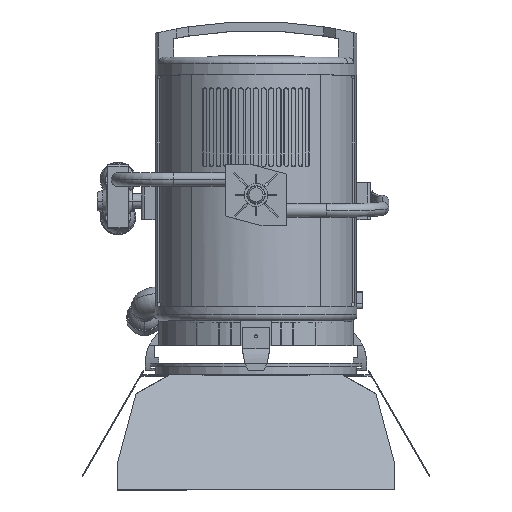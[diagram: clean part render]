
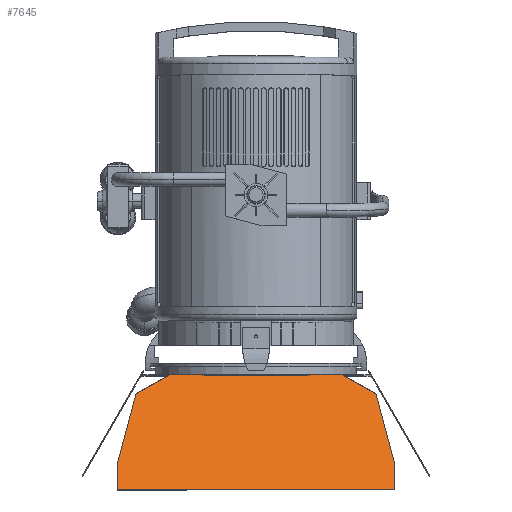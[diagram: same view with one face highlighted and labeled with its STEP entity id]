
A CAD part, top view. The second image highlights one B-rep face of the part: STEP entity #7645.
In plain terms, the highlighted planar face has unit normal (0, 0.5, 0.866) as drawn and (0, 0.866, -0.5) by its records, which use the part's own axes.
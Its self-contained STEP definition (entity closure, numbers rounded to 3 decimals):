
#1169 = VERTEX_POINT ( 'NONE', #25418 ) ;
#2176 = ORIENTED_EDGE ( 'NONE', *, *, #44955, .F. ) ;
#2838 = CARTESIAN_POINT ( 'NONE',  ( -195., 205., 48.811 ) ) ;
#3514 = CARTESIAN_POINT ( 'NONE',  ( -225., 270., 161.394 ) ) ;
#4025 = ORIENTED_EDGE ( 'NONE', *, *, #17364, .F. ) ;
#4124 = CARTESIAN_POINT ( 'NONE',  ( 195., 205., 48.811 ) ) ;
#4369 = LINE ( 'NONE', #33907, #12731 ) ;
#5915 = EDGE_CURVE ( 'NONE', #1169, #27390, #26769, .T. ) ;
#6369 = CARTESIAN_POINT ( 'NONE',  ( 140., 187.5, 18.5 ) ) ;
#6868 = VECTOR ( 'NONE', #8583, 1000. ) ;
#7489 = FACE_OUTER_BOUND ( 'NONE', #31205, .T. ) ;
#7505 = VERTEX_POINT ( 'NONE', #14333 ) ;
#7645 = ADVANCED_FACE ( 'NONE', ( #7489 ), #40484, .F. ) ;
#8465 = LINE ( 'NONE', #36101, #34040 ) ;
#8583 = DIRECTION ( 'NONE',  ( -1., 0., 0. ) ) ;
#9075 = VECTOR ( 'NONE', #12027, 1000. ) ;
#9413 = VERTEX_POINT ( 'NONE', #29239 ) ;
#9713 = LINE ( 'NONE', #25949, #44601 ) ;
#9978 = EDGE_CURVE ( 'NONE', #17866, #34977, #4369, .T. ) ;
#10423 = CARTESIAN_POINT ( 'NONE',  ( 195., 205., 48.811 ) ) ;
#11270 = LINE ( 'NONE', #10423, #29745 ) ;
#11815 = VERTEX_POINT ( 'NONE', #3514 ) ;
#12027 = DIRECTION ( 'NONE',  ( 0.844, -0.268, -0.465 ) ) ;
#12731 = VECTOR ( 'NONE', #40937, 1000. ) ;
#12750 = LINE ( 'NONE', #45305, #39433 ) ;
#13509 = EDGE_CURVE ( 'NONE', #34977, #11815, #34075, .T. ) ;
#13600 = DIRECTION ( 'NONE',  ( 0.225, -0.487, -0.844 ) ) ;
#14333 = CARTESIAN_POINT ( 'NONE',  ( 225., 270., 161.394 ) ) ;
#14571 = CARTESIAN_POINT ( 'NONE',  ( 140., 187.5, 18.5 ) ) ;
#14908 = CARTESIAN_POINT ( 'NONE',  ( -82.878, 187.5, 18.5 ) ) ;
#15059 = AXIS2_PLACEMENT_3D ( 'NONE', #43892, #44052, #23104 ) ;
#16437 = VECTOR ( 'NONE', #38923, 1000. ) ;
#16631 = EDGE_CURVE ( 'NONE', #42089, #7505, #11270, .T. ) ;
#16643 = VECTOR ( 'NONE', #36636, 1000. ) ;
#17364 = EDGE_CURVE ( 'NONE', #40773, #42089, #8465, .T. ) ;
#17866 = VERTEX_POINT ( 'NONE', #38924 ) ;
#23104 = DIRECTION ( 'NONE',  ( 0., -0.5, -0.866 ) ) ;
#25320 = CARTESIAN_POINT ( 'NONE',  ( 82.878, 187.5, 18.5 ) ) ;
#25418 = CARTESIAN_POINT ( 'NONE',  ( -140., 187.5, 18.5 ) ) ;
#25906 = CARTESIAN_POINT ( 'NONE',  ( -82.878, 187.5, 18.5 ) ) ;
#25949 = CARTESIAN_POINT ( 'NONE',  ( 140., 187.5, 18.5 ) ) ;
#26339 = LINE ( 'NONE', #2838, #42739 ) ;
#26769 = LINE ( 'NONE', #14571, #16437 ) ;
#27390 = VERTEX_POINT ( 'NONE', #14908 ) ;
#27771 = ORIENTED_EDGE ( 'NONE', *, *, #42547, .F. ) ;
#27882 = DIRECTION ( 'NONE',  ( 0., 0.5, 0.866 ) ) ;
#29239 = CARTESIAN_POINT ( 'NONE',  ( -195., 205., 48.811 ) ) ;
#29435 = DIRECTION ( 'NONE',  ( 1., 0., 0. ) ) ;
#29605 = CARTESIAN_POINT ( 'NONE',  ( -225., 270., 161.394 ) ) ;
#29745 = VECTOR ( 'NONE', #38103, 1000. ) ;
#31205 = EDGE_LOOP ( 'NONE', ( #4025, #27771, #36503, #32329, #40845, #2176, #39099, #40158, #34951, #34535 ) ) ;
#32329 = ORIENTED_EDGE ( 'NONE', *, *, #5915, .F. ) ;
#32861 = CARTESIAN_POINT ( 'NONE',  ( -140., 187.5, 18.5 ) ) ;
#33907 = CARTESIAN_POINT ( 'NONE',  ( -225., 295., 204.695 ) ) ;
#34040 = VECTOR ( 'NONE', #39575, 1000. ) ;
#34075 = LINE ( 'NONE', #29605, #16643 ) ;
#34535 = ORIENTED_EDGE ( 'NONE', *, *, #16631, .F. ) ;
#34715 = LINE ( 'NONE', #25906, #6868 ) ;
#34951 = ORIENTED_EDGE ( 'NONE', *, *, #45041, .F. ) ;
#34977 = VERTEX_POINT ( 'NONE', #35685 ) ;
#35685 = CARTESIAN_POINT ( 'NONE',  ( -225., 295., 204.695 ) ) ;
#35762 = LINE ( 'NONE', #32861, #9075 ) ;
#36101 = CARTESIAN_POINT ( 'NONE',  ( 140., 187.5, 18.5 ) ) ;
#36503 = ORIENTED_EDGE ( 'NONE', *, *, #38149, .T. ) ;
#36636 = DIRECTION ( 'NONE',  ( 0., -0.5, -0.866 ) ) ;
#38103 = DIRECTION ( 'NONE',  ( 0.225, 0.487, 0.844 ) ) ;
#38149 = EDGE_CURVE ( 'NONE', #40858, #27390, #34715, .T. ) ;
#38923 = DIRECTION ( 'NONE',  ( 1., 0., 0. ) ) ;
#38924 = CARTESIAN_POINT ( 'NONE',  ( 225., 295., 204.695 ) ) ;
#39099 = ORIENTED_EDGE ( 'NONE', *, *, #13509, .F. ) ;
#39433 = VECTOR ( 'NONE', #27882, 1000. ) ;
#39575 = DIRECTION ( 'NONE',  ( 0.844, 0.268, 0.465 ) ) ;
#40158 = ORIENTED_EDGE ( 'NONE', *, *, #9978, .F. ) ;
#40484 = PLANE ( 'NONE',  #15059 ) ;
#40773 = VERTEX_POINT ( 'NONE', #6369 ) ;
#40845 = ORIENTED_EDGE ( 'NONE', *, *, #43285, .F. ) ;
#40858 = VERTEX_POINT ( 'NONE', #25320 ) ;
#40937 = DIRECTION ( 'NONE',  ( -1., 0., 0. ) ) ;
#42089 = VERTEX_POINT ( 'NONE', #4124 ) ;
#42547 = EDGE_CURVE ( 'NONE', #40858, #40773, #9713, .T. ) ;
#42739 = VECTOR ( 'NONE', #13600, 1000. ) ;
#43285 = EDGE_CURVE ( 'NONE', #9413, #1169, #35762, .T. ) ;
#43892 = CARTESIAN_POINT ( 'NONE',  ( 0., 132.614, -76.565 ) ) ;
#44052 = DIRECTION ( 'NONE',  ( 0., -0.866, 0.5 ) ) ;
#44601 = VECTOR ( 'NONE', #29435, 1000. ) ;
#44955 = EDGE_CURVE ( 'NONE', #11815, #9413, #26339, .T. ) ;
#45041 = EDGE_CURVE ( 'NONE', #7505, #17866, #12750, .T. ) ;
#45305 = CARTESIAN_POINT ( 'NONE',  ( 225., 270., 161.394 ) ) ;
